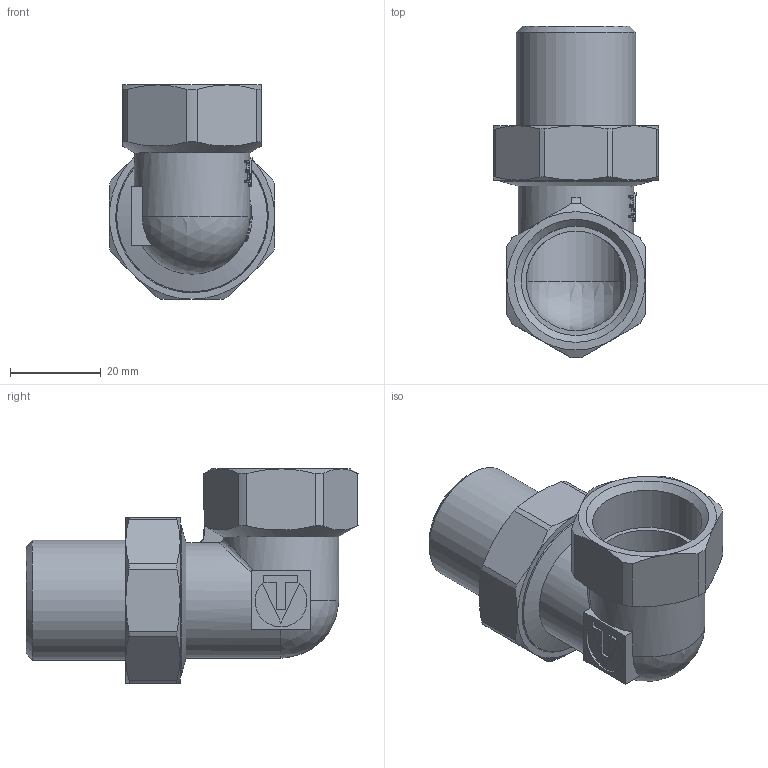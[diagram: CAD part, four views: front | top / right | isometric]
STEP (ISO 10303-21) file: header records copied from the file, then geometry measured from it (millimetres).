
FILE_DESCRIPTION(('STEP AP203'), '1');
FILE_NAME('覆.302635.007.000 捘 - VTr.098.N.0005', '2024-07-11T12:55:06', ('Boss'), (''), 'C3D Converter', 'C3D Toolkit', '');
FILE_SCHEMA(('CONFIG_CONTROL_DESIGN'));
Length unit declared in the file: millimetre
Products named in the file (1): ВР.302635.007.000 СБ
Bounding box: 36.5 x 73.23 x 47.25 mm (x, y, z)
Volume: 24318.4 mm3; surface area: 17219.9 mm2
Topology: 1 solids, 4 shells, 335 faces, 925 edges, 603 vertices
Faces by surface type: extrusion 138, plane 120, cylinder 41, cone 26, torus 5, bspline 3, sphere 2
Full cylindrical faces by diameter (mm): 20 x1, 22 x2, 24 x1, 24.118 x1, 25.5 x1, 26.441 x1, 27 x1, 29 x1, 30.292 x1, 33.249 x1
Entity records: 14718 total; most frequent: CARTESIAN_POINT 7116, ORIENTED_EDGE 1756, DIRECTION 1141, EDGE_CURVE 878, VERTEX_POINT 595, B_SPLINE_CURVE_WITH_KNOTS 470, VECTOR 469, EDGE_LOOP 387
